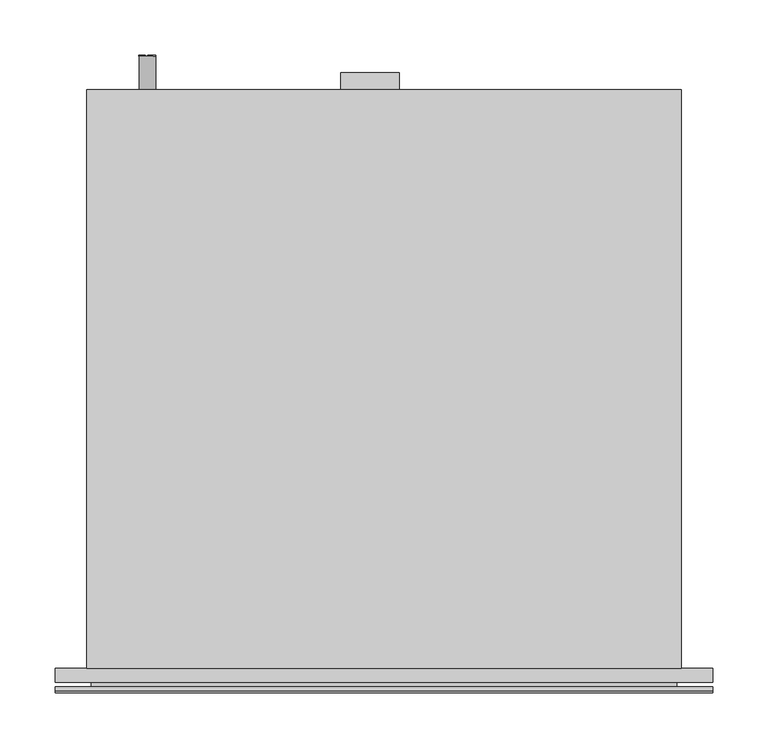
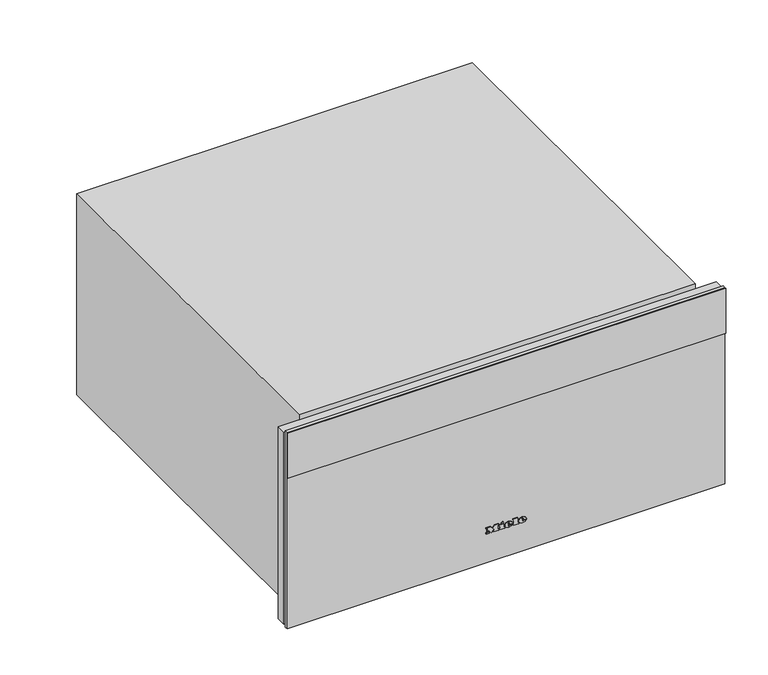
"""IFC4 building model written with IfcOpenShell, lengths in millimetres: proxy geometry, 11171380_NL_ESW7020_EDST-CLST : 30702040_NL_11171380_ESW7020_EDST-CLST."""

from ifc_helpers import new_model, si_unit, point, frame, frame_2d, origin, place, context, project, spatial, polyline, circle_curve, ellipse_curve, trimmed, segment, composite_curve, outline, extrude, faceted_brep, source, transform, mapped, element, save
from ifc_brep_helpers import plane_surface, cylinder_surface, revolved_surface, extruded_surface, advanced_brep


def specialty_equipment_9ca6b04c(model_context):
    return source(origin(), model_context, "Body", "SolidModel", [
        advanced_brep(
        [(21.28, -22.0, 48.133), (21.28, -22.0, 49.042), (27.301, -22.0, 49.042), (16.825, -22.0, 49.042), (19.3, -22.0, 46.0), (27.148, -22.0, 48.133), (24.43, -22.0, 48.133), (22.288, -22.0, 47.125), (21.28, -22.0, 50.194), (21.28, -22.0, 51.175), (22.819, -22.0, 51.175), (22.819, -22.0, 50.194), (21.28, -21.0, 48.133), (22.288, -21.0, 47.125), (24.43, -21.0, 48.133), (27.148, -21.0, 48.133), (19.3, -21.0, 46.0), (16.825, -21.0, 49.042), (27.301, -21.0, 49.042), (21.28, -21.0, 49.042), (21.28, -21.0, 50.194), (22.819, -21.0, 50.194), (22.819, -21.0, 51.175), (21.28, -21.0, 51.175)],
        [
            (0, 1),
            (1, 2),
            (2, 3, ellipse_curve(frame((22.063, -22.0, 49.042), z_axis=(0.0, -1.0, 0.0), x_axis=(-1.0, 0.0, 0.0)), 5.238, 4.329)),
            (3, 4, circle_curve(frame((20.3080491, -22.0, 49.348), z_axis=(0.0, -1.0, 0.0), x_axis=(0.0, 0.0, -1.0)), 3.4964649)),
            (4, 5, circle_curve(frame((21.9581428, -22.0, 51.724), z_axis=(0.0, -1.0, 0.0), x_axis=(0.0, 0.0, -1.0)), 6.3110933)),
            (5, 6),
            (6, 7, circle_curve(frame((22.7279412, -22.0, 48.97), z_axis=(0.0, 1.0, 0.0), x_axis=(0.0, 0.0, -1.0)), 1.896727)),
            (7, 0, circle_curve(frame((22.288, -22.0, 48.133), z_axis=(0.0, 1.0, 0.0), x_axis=(0.0, 0.0, -1.0)), 1.008)),
            (8, 9),
            (9, 10, circle_curve(frame((22.0495, -22.0, 51.175), z_axis=(0.0, 1.0, 0.0), x_axis=(0.0, 0.0, -1.0)), 0.7695)),
            (10, 11),
            (11, 8),
            (12, 13, circle_curve(frame((22.288, -21.0, 48.133), z_axis=(0.0, -1.0, 0.0), x_axis=(0.0, 0.0, -1.0)), 1.008)),
            (13, 14, circle_curve(frame((22.7279412, -21.0, 48.97), z_axis=(0.0, -1.0, 0.0), x_axis=(0.0, 0.0, -1.0)), 1.896727)),
            (14, 15),
            (15, 16, circle_curve(frame((21.9581428, -21.0, 51.724), z_axis=(0.0, 1.0, 0.0), x_axis=(0.0, 0.0, -1.0)), 6.3110933)),
            (16, 17, circle_curve(frame((20.3080491, -21.0, 49.348), z_axis=(0.0, 1.0, 0.0), x_axis=(0.0, 0.0, -1.0)), 3.4964649)),
            (17, 18, ellipse_curve(frame((22.063, -21.0, 49.042), z_axis=(0.0, 1.0, 0.0), x_axis=(-1.0, 0.0, 0.0)), 5.238, 4.329)),
            (18, 19),
            (19, 12),
            (20, 21),
            (21, 22),
            (22, 23, circle_curve(frame((22.0495, -21.0, 51.175), z_axis=(0.0, -1.0, 0.0), x_axis=(0.0, 0.0, -1.0)), 0.7695)),
            (23, 20),
            (0, 12),
            (19, 1),
            (18, 2),
            (5, 15),
            (14, 6),
            (17, 3),
            (13, 7),
            (16, 4),
            (8, 20),
            (23, 9),
            (22, 10),
            (21, 11),
        ],
        [
            plane_surface(frame((21.28, -22.0, 49.042), z_axis=(0.0, -1.0, 0.0), x_axis=(0.0, 0.0, 1.0))),
            plane_surface(frame((21.28, -21.0, 49.042), z_axis=(0.0, 1.0, 0.0), x_axis=(0.0, 0.0, -1.0))),
            plane_surface(frame((21.28, -22.0, 48.133), z_axis=(1.0, 0.0, 0.0), x_axis=(0.0, 1.0, 0.0))),
            plane_surface(frame((21.28, -22.0, 49.042), z_axis=(0.0, 0.0, -1.0), x_axis=(0.0, 1.0, 0.0))),
            plane_surface(frame((27.148, -22.0, 48.133), z_axis=(0.0, 0.0, 1.0), x_axis=(0.0, 1.0, 0.0))),
            extruded_surface(trimmed(ellipse_curve(frame((22.063, -20.0, 49.042), z_axis=(0.0, -1.0, 0.0), x_axis=(-1.0, 0.0, 0.0)), 5.238, 4.329), [point((27.301, -20.0, 49.042))], [point((16.825, -20.0, 49.042))], True, "CARTESIAN"), (0.0, -1.0, 0.0), 1.0),
            revolved_surface(polyline([(22.7279412, -21.0, 47.073273), (22.7279412, -22.0, 47.073273)]), (22.7279412, -21.0, 48.97), (0.0, 1.0, 0.0)),
            revolved_surface(polyline([(22.288, -21.0, 47.125), (22.288, -22.0, 47.125)]), (22.288, -21.0, 48.133), (0.0, 1.0, 0.0)),
            cylinder_surface(frame((20.3080491, -21.0, 49.348), z_axis=(0.0, -1.0, 0.0), x_axis=(0.0, 0.0, -1.0)), 3.4964649),
            cylinder_surface(frame((21.9581428, -21.0, 51.724), z_axis=(0.0, -1.0, 0.0), x_axis=(0.0, 0.0, -1.0)), 6.3110933),
            plane_surface(frame((21.28, -22.0, 50.194), z_axis=(1.0, 0.0, 0.0), x_axis=(0.0, 1.0, 0.0))),
            revolved_surface(polyline([(22.0495, -21.0, 50.405499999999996), (22.0495, -22.0, 50.405499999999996)]), (22.0495, -21.0, 51.175), (0.0, 1.0, 0.0)),
            plane_surface(frame((22.819, -22.0, 51.175), z_axis=(-1.0, 0.0, 0.0), x_axis=(0.0, 1.0, 0.0))),
            plane_surface(frame((22.819, -22.0, 50.194), z_axis=(0.0, 0.0, 1.0), x_axis=(0.0, 1.0, 0.0))),
        ],
        [
            (0, [[1, 2, 3, 4, 5, 6, 7, 8], [9, 10, 11, 12]]),
            (1, [[13, 14, 15, 16, 17, 18, 19, 20], [21, 22, 23, 24]]),
            (2, [[-1, 25, -20, 26]]),
            (3, [[-2, -26, -19, 27]]),
            (4, [[-6, 28, -15, 29]]),
            (5, [[-3, -27, -18, 30]]),
            (6, [[-7, -29, -14, 31]]),
            (7, [[-8, -31, -13, -25]]),
            (8, [[-4, -30, -17, 32]]),
            (9, [[-5, -32, -16, -28]]),
            (10, [[-9, 33, -24, 34]]),
            (11, [[-10, -34, -23, 35]]),
            (12, [[-11, -35, -22, 36]]),
            (13, [[-12, -36, -21, -33]]),
        ],
    ),
        advanced_brep(
        [(2.497, -22.0, 48.133), (2.497, -22.0, 49.042), (8.518, -22.0, 49.042), (-1.958, -22.0, 49.042), (0.517, -22.0, 46.0), (8.365, -22.0, 48.133), (5.647, -22.0, 48.133), (3.505, -22.0, 47.125), (2.497, -22.0, 50.194), (2.497, -22.0, 51.175), (4.036, -22.0, 51.175), (4.036, -22.0, 50.194), (2.497, -21.0, 48.133), (3.505, -21.0, 47.125), (5.647, -21.0, 48.133), (8.365, -21.0, 48.133), (0.517, -21.0, 46.0), (-1.958, -21.0, 49.042), (8.518, -21.0, 49.042), (2.497, -21.0, 49.042), (2.497, -21.0, 50.194), (4.036, -21.0, 50.194), (4.036, -21.0, 51.175), (2.497, -21.0, 51.175)],
        [
            (0, 1),
            (1, 2),
            (2, 3, ellipse_curve(frame((3.28, -22.0, 49.042), z_axis=(0.0, -1.0, 0.0), x_axis=(-1.0, 0.0, 0.0)), 5.238, 4.329)),
            (3, 4, circle_curve(frame((1.5250491, -22.0, 49.348), z_axis=(0.0, -1.0, 0.0), x_axis=(0.0, 0.0, -1.0)), 3.4964649)),
            (4, 5, circle_curve(frame((3.1751428, -22.0, 51.724), z_axis=(0.0, -1.0, 0.0), x_axis=(0.0, 0.0, -1.0)), 6.3110933)),
            (5, 6),
            (6, 7, circle_curve(frame((3.9449412, -22.0, 48.97), z_axis=(0.0, 1.0, 0.0), x_axis=(0.0, 0.0, -1.0)), 1.896727)),
            (7, 0, circle_curve(frame((3.505, -22.0, 48.133), z_axis=(0.0, 1.0, 0.0), x_axis=(0.0, 0.0, -1.0)), 1.008)),
            (8, 9),
            (9, 10, circle_curve(frame((3.2665, -22.0, 51.175), z_axis=(0.0, 1.0, 0.0), x_axis=(0.0, 0.0, -1.0)), 0.7695)),
            (10, 11),
            (11, 8),
            (12, 13, circle_curve(frame((3.505, -21.0, 48.133), z_axis=(0.0, -1.0, 0.0), x_axis=(0.0, 0.0, -1.0)), 1.008)),
            (13, 14, circle_curve(frame((3.9449412, -21.0, 48.97), z_axis=(0.0, -1.0, 0.0), x_axis=(0.0, 0.0, -1.0)), 1.896727)),
            (14, 15),
            (15, 16, circle_curve(frame((3.1751428, -21.0, 51.724), z_axis=(0.0, 1.0, 0.0), x_axis=(0.0, 0.0, -1.0)), 6.3110933)),
            (16, 17, circle_curve(frame((1.5250491, -21.0, 49.348), z_axis=(0.0, 1.0, 0.0), x_axis=(0.0, 0.0, -1.0)), 3.4964649)),
            (17, 18, ellipse_curve(frame((3.28, -21.0, 49.042), z_axis=(0.0, 1.0, 0.0), x_axis=(-1.0, 0.0, 0.0)), 5.238, 4.329)),
            (18, 19),
            (19, 12),
            (20, 21),
            (21, 22),
            (22, 23, circle_curve(frame((3.2665, -21.0, 51.175), z_axis=(0.0, -1.0, 0.0), x_axis=(0.0, 0.0, -1.0)), 0.7695)),
            (23, 20),
            (0, 12),
            (19, 1),
            (18, 2),
            (5, 15),
            (14, 6),
            (17, 3),
            (13, 7),
            (16, 4),
            (8, 20),
            (23, 9),
            (22, 10),
            (21, 11),
        ],
        [
            plane_surface(frame((2.497, -22.0, 49.042), z_axis=(0.0, -1.0, 0.0), x_axis=(0.0, 0.0, 1.0))),
            plane_surface(frame((2.497, -21.0, 49.042), z_axis=(0.0, 1.0, 0.0), x_axis=(0.0, 0.0, -1.0))),
            plane_surface(frame((2.497, -22.0, 48.133), z_axis=(1.0, 0.0, 0.0), x_axis=(0.0, 1.0, 0.0))),
            plane_surface(frame((2.497, -22.0, 49.042), z_axis=(0.0, 0.0, -1.0), x_axis=(0.0, 1.0, 0.0))),
            plane_surface(frame((8.365, -22.0, 48.133), z_axis=(0.0, 0.0, 1.0), x_axis=(0.0, 1.0, 0.0))),
            extruded_surface(trimmed(ellipse_curve(frame((3.28, -20.0, 49.042), z_axis=(0.0, -1.0, 0.0), x_axis=(-1.0, 0.0, 0.0)), 5.238, 4.329), [point((8.518, -20.0, 49.042))], [point((-1.958, -20.0, 49.042))], True, "CARTESIAN"), (0.0, -1.0, 0.0), 1.0),
            revolved_surface(polyline([(3.9449412, -21.0, 47.073273), (3.9449412, -22.0, 47.073273)]), (3.9449412, -21.0, 48.97), (0.0, 1.0, 0.0)),
            revolved_surface(polyline([(3.505, -21.0, 47.125), (3.505, -22.0, 47.125)]), (3.505, -21.0, 48.133), (0.0, 1.0, 0.0)),
            cylinder_surface(frame((1.5250491, -21.0, 49.348), z_axis=(0.0, -1.0, 0.0), x_axis=(0.0, 0.0, -1.0)), 3.4964649),
            cylinder_surface(frame((3.1751428, -21.0, 51.724), z_axis=(0.0, -1.0, 0.0), x_axis=(0.0, 0.0, -1.0)), 6.3110933),
            plane_surface(frame((2.497, -22.0, 50.194), z_axis=(1.0, 0.0, 0.0), x_axis=(0.0, 1.0, 0.0))),
            revolved_surface(polyline([(3.2665, -21.0, 50.405499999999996), (3.2665, -22.0, 50.405499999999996)]), (3.2665, -21.0, 51.175), (0.0, 1.0, 0.0)),
            plane_surface(frame((4.036, -22.0, 51.175), z_axis=(-1.0, 0.0, 0.0), x_axis=(0.0, 1.0, 0.0))),
            plane_surface(frame((4.036, -22.0, 50.194), z_axis=(0.0, 0.0, 1.0), x_axis=(0.0, 1.0, 0.0))),
        ],
        [
            (0, [[1, 2, 3, 4, 5, 6, 7, 8], [9, 10, 11, 12]]),
            (1, [[13, 14, 15, 16, 17, 18, 19, 20], [21, 22, 23, 24]]),
            (2, [[-1, 25, -20, 26]]),
            (3, [[-2, -26, -19, 27]]),
            (4, [[-6, 28, -15, 29]]),
            (5, [[-3, -27, -18, 30]]),
            (6, [[-7, -29, -14, 31]]),
            (7, [[-8, -31, -13, -25]]),
            (8, [[-4, -30, -17, 32]]),
            (9, [[-5, -32, -16, -28]]),
            (10, [[-9, 33, -24, 34]]),
            (11, [[-10, -34, -23, 35]]),
            (12, [[-11, -35, -22, 36]]),
            (13, [[-12, -36, -21, -33]]),
        ],
    ),
        extrude(outline(polyline([(54.469, -7.34), (53.011, -6.656), (54.433, -3.605), (55.891, -4.28), (54.469, -7.34)])), frame((0.0, -22.0, 0.0), z_axis=(0.0, 1.0, 0.0), x_axis=(0.0, 0.0, 1.0)), (0.0, 0.0, 1.0), 1.0),
        extrude(outline(polyline([(52.813, -9.563), (51.202, -9.563), (51.202, -8.492), (47.512, -8.492), (47.512, -9.563), (46.0, -9.563), (46.0, -2.462), (47.512, -2.462), (47.512, -3.506), (52.813, -3.506), (52.813, -9.563)])), frame((0.0, -22.0, 0.0), z_axis=(0.0, 1.0, 0.0), x_axis=(0.0, 0.0, 1.0)), (0.0, 0.0, 1.0), 1.0),
        extrude(outline(polyline([(53.533, 9.022), (53.533, 10.102), (47.512, 10.102), (47.512, 9.022), (46.0, 9.022), (46.0, 16.321), (47.512, 16.321), (47.512, 15.214), (55.0, 15.214), (55.0, 9.022), (53.533, 9.022)])), frame((0.0, -22.0, 0.0), z_axis=(0.0, 1.0, 0.0), x_axis=(0.0, 0.0, 1.0)), (0.0, 0.0, 1.0), 1.0),
        extrude(outline(polyline([(53.533, -27.5), (53.533, -26.411), (47.512, -26.411), (47.512, -27.5), (46.0, -27.5), (46.0, -23.54), (47.512, -23.54), (47.512, -24.62), (51.3341247, -24.62), (46.0, -20.597), (51.4402223, -16.556), (47.512, -16.556), (47.512, -17.663), (46.0, -17.663), (46.0, -10.481), (47.512, -10.481), (47.512, -11.624), (53.533, -11.624), (53.533, -10.481), (55.0, -10.481), (55.0, -15.962), (51.625, -18.59), (55.0, -21.227), (55.0, -27.5), (53.533, -27.5)])), frame((0.0, -22.0, 0.0), z_axis=(0.0, 1.0, 0.0), x_axis=(0.0, 0.0, 1.0)), (0.0, 0.0, 1.0), 1.0),
        extrude(outline(polyline([(-297.5, -21.0), (297.5, -21.0), (297.5, -22.3), (-297.5, -22.3), (-297.5, -21.0)])), frame((0.0, 0.0, 221.0), z_axis=(0.0, 0.0, 1.0), x_axis=(1.0, 0.0, 0.0)), (0.0, 0.0, 1.0), 65.0),
        extrude(outline(polyline([(-297.5, -17.0), (297.5, -17.0), (297.5, -21.0), (-297.5, -21.0), (-297.5, -17.0)])), frame((0.0, 0.0, 4.0), z_axis=(0.0, 0.0, 1.0), x_axis=(1.0, 0.0, 0.0)), (0.0, 0.0, 1.0), 282.0),
        extrude(outline(polyline([(-265.0, -13.0), (265.0, -13.0), (265.0, -17.0), (-265.0, -17.0), (-265.0, -13.0)])), frame((0.0, 0.0, 6.0), z_axis=(0.0, 0.0, 1.0), x_axis=(1.0, 0.0, 0.0)), (0.0, 0.0, 1.0), 273.0),
        extrude(outline(polyline([(-13.0, 10.0), (-13.0, 274.0), (19.0, 274.0), (19.0, 233.0), (4.0, 233.0), (4.0, 10.0), (-13.0, 10.0)])), frame((-261.0, 0.0, 0.0), z_axis=(1.0, 0.0, 0.0), x_axis=(0.0, 1.0, 0.0)), (0.0, 0.0, 1.0), 522.0),
        extrude(outline(polyline([(24.045335, -206.6203116), (24.045335, -213.8439827), (22.7898265, -213.8439827), (22.7898265, -207.876825), (19.8076572, -207.876825), (19.8076572, -213.5281281), (18.5519876, -213.5281281), (18.5519876, -207.876825), (15.2564531, -207.876825), (15.2564531, -213.8439827), (14.0, -213.8439827), (14.0, -206.6203116), (24.045335, -206.6203116)])), frame((0.0, 554.0, 0.0), z_axis=(0.0, 1.0, 0.0), x_axis=(0.0, 0.0, 1.0)), (0.0, 0.0, 1.0), 1.0),
        extrude(outline(polyline([(24.0461611, -217.1431874), (15.255243, -217.1431874), (15.255243, -222.1617362), (13.9997538, -222.1617362), (13.9997538, -217.1431874), (13.9997538, -215.8823011), (24.0461611, -215.8823011), (24.0461611, -217.1431874)])), frame((0.0, 554.0, 0.0), z_axis=(0.0, 1.0, 0.0), x_axis=(0.0, 0.0, 1.0)), (0.0, 0.0, 1.0), 1.0),
        extrude(outline(composite_curve([segment(trimmed(circle_curve(frame_2d((19.0, -214.0)), 7.5), [point((19.0, -206.5))], [point((19.0, -221.5))], False, "CARTESIAN"), True, "CONTINUOUS"), segment(trimmed(circle_curve(frame_2d((19.0, -214.0)), 7.5), [point((19.0, -221.5))], [point((19.0, -206.5))], False, "CARTESIAN"), True, "CONTINUOUS")], self_intersect=False)), frame((0.0, 524.0, 0.0), z_axis=(0.0, 1.0, 0.0), x_axis=(0.0, 0.0, 1.0)), (0.0, 0.0, 1.0), 30.0),
        faceted_brep([(269.0, 524.0, 289.0), (269.0, 524.0, 0.0), (-269.0, 524.0, 0.0), (-269.0, 524.0, 289.0), (269.0, 0.0, 289.0), (269.0, 0.0, 281.5), (269.0, 0.0, 5.5), (269.0, 0.0, 0.0), (-269.0, 0.0, 0.0), (-269.0, 0.0, 5.5), (-269.0, 0.0, 281.5), (-269.0, 0.0, 289.0), (-297.5, 0.0, 281.5), (-297.5, -13.0, 281.5), (297.5, -13.0, 281.5), (297.5, 0.0, 281.5), (-267.0, 0.0, 5.5), (-267.0, -13.0, 5.5), (-297.5, -13.0, 5.5), (-297.5, 0.0, 5.5), (267.0, 0.0, 5.5), (297.5, 0.0, 5.5), (297.5, -13.0, 5.5), (267.0, -13.0, 5.5), (-267.0, -13.0, 279.0), (267.0, -13.0, 279.0), (267.0, 522.0, 279.0), (-267.0, 522.0, 279.0), (-267.0, 522.0, 6.0), (267.0, 522.0, 6.0), (-267.0, 0.0, 6.0), (267.0, 0.0, 6.0)], [[[0, 1, 2, 3]], [[1, 0, 4, 5, 6, 7]], [[3, 2, 8, 9, 10, 11]], [[5, 10, 12, 13, 14, 15]], [[10, 5, 4, 11]], [[9, 16, 17, 18, 19]], [[20, 6, 21, 22, 23]], [[12, 10, 9, 19]], [[5, 15, 21, 6]], [[14, 13, 18, 17, 24, 25, 23, 22]], [[15, 14, 22, 21]], [[13, 12, 19, 18]], [[26, 27, 28, 29]], [[29, 28, 30, 31]], [[27, 26, 25, 24]], [[30, 16, 9, 8, 7, 6, 20, 31]], [[2, 1, 7, 8]], [[0, 3, 11, 4]], [[17, 16, 30, 28, 27, 24]], [[25, 26, 29, 31, 20, 23]]]),
        extrude(outline(polyline([(-39.0, 539.0), (14.0, 539.0), (14.0, 524.0), (-39.0, 524.0), (-39.0, 539.0)])), frame((0.0, 0.0, 4.0), z_axis=(0.0, 0.0, 1.0), x_axis=(1.0, 0.0, 0.0)), (0.0, 0.0, 1.0), 29.0),
    ])


if __name__ == "__main__":
    model = new_model("IFC4")
    model_context = context("Model", 3, world=origin())
    ifc_project = project(units=[si_unit("LENGTHUNIT", "METRE", prefix="MILLI")], contexts=[model_context])
    site = spatial("IfcSite", under=ifc_project)
    building = spatial("IfcBuilding", under=site)
    placement = place(None, origin())
    specialty_equipment_shape = specialty_equipment_9ca6b04c(model_context)
    element("IfcBuildingElementProxy", 1, Name="11171380_NL_ESW7020_EDST-CLST : 30702040_NL_11171380_ESW7020_EDST-CLST", ObjectType="11171380_NL_ESW7020_EDST-CLST : 30702040_NL_11171380_ESW7020_EDST-CLST", at=placement, inside=building, context=model_context, shape_type="MappedRepresentation", body=[
        mapped(specialty_equipment_shape, transform((0.0, 0.0, 0.0), x_axis=(1.0, 0.0, 0.0), y_axis=(0.0, 1.0, 0.0), z_axis=(0.0, 0.0, 1.0))),
    ])
    save(model, "model.ifc")
